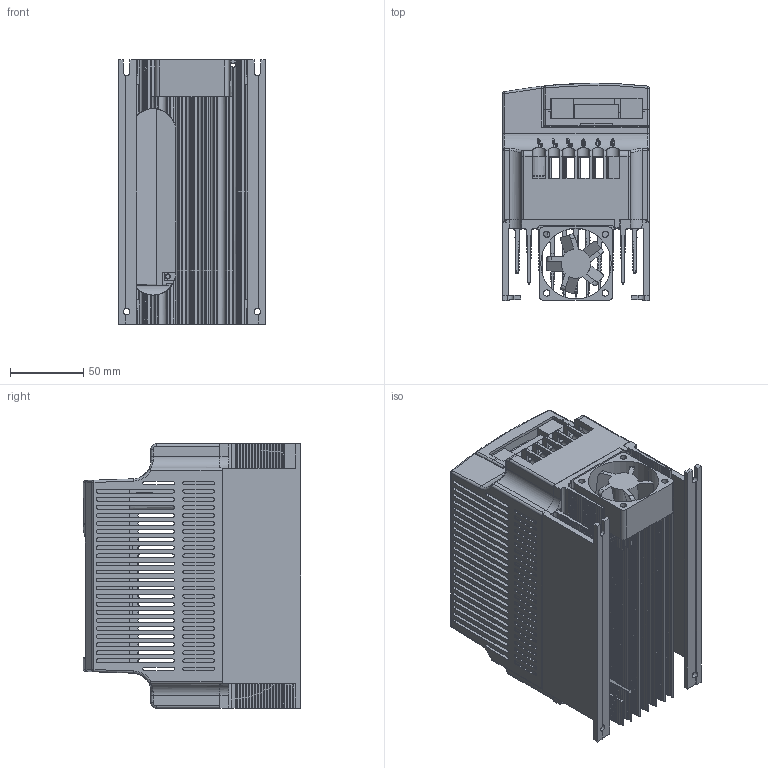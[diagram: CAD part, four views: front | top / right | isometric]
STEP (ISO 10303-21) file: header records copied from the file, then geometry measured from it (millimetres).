
FILE_DESCRIPTION((''),'2;1');
FILE_NAME('S900-BIG-20180907_ASM','2023-08-03T17:03:54',('ZhangJF'),(''),'CREO PARAMETRIC BY PTC INC, 2019010','CREO PARAMETRIC BY PTC INC, 2019010','');
FILE_SCHEMA(('CONFIG_CONTROL_DESIGN','SHAPE_APPEARANCE_LAYERS_GROUPS'));
Products named in the file (9): 3; 4; 5; FAN; 7; PCB-5; PCB-4; KONGZHIBAN_ASM; S900-BIG-20180907_ASM
Assembly tree (8 placements, depth 3):
  S900-BIG-20180907_ASM
    3
    4
    5
    FAN
    7
    KONGZHIBAN_ASM
      PCB-5
      PCB-4
Bounding box: 100 x 147.97 x 180 mm (x, y, z)
Volume: 485203.8 mm3; surface area: 388665.2 mm2
Topology: 8 solids, 8 shells, 3195 faces, 9092 edges, 6015 vertices
Faces by surface type: cylinder 1641, plane 1380, extrusion 76, torus 52, bspline 22, cone 12, sphere 12
Entity records: 109667 total; most frequent: CARTESIAN_POINT 25703, ORIENTED_EDGE 18184, DIRECTION 16844, EDGE_CURVE 9092, AXIS2_PLACEMENT_3D 6035, VERTEX_POINT 6015, VECTOR 4774, LINE 4698
